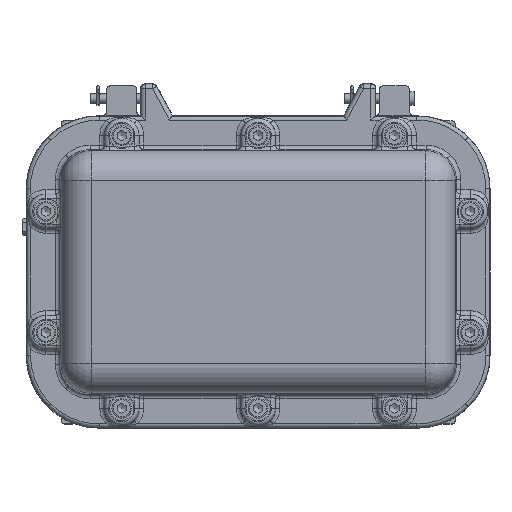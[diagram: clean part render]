
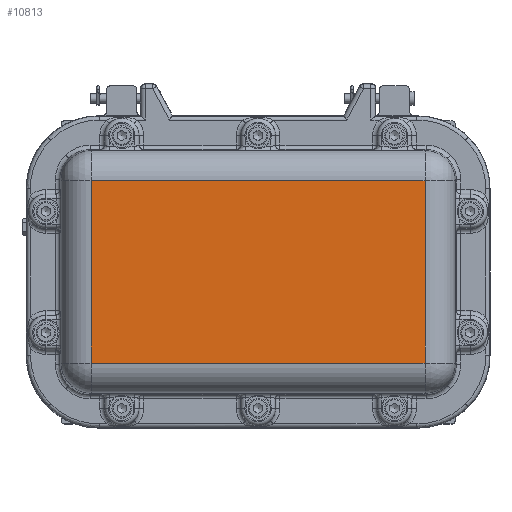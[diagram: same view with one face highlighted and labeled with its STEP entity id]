
A CAD part, top view. The second image highlights one B-rep face of the part: STEP entity #10813.
In plain terms, the highlighted planar face has unit normal (0, 0, 1).
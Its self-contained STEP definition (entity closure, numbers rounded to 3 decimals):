
#10813=ADVANCED_FACE('',(#47989),#47991,.T.);
#47989=FACE_BOUND('',#47990,.T.);
#47990=EDGE_LOOP('',(#60858,#60859,#60860,#60861));
#47991=PLANE('',#47992);
#47992=AXIS2_PLACEMENT_3D('',#47993,#47994,#47995);
#47993=CARTESIAN_POINT('',(0.,0.,40.));
#47994=DIRECTION('',(0.,-0.,1.));
#47995=DIRECTION('',(1.,0.,-0.));
#60858=ORIENTED_EDGE('',*,*,#67212,.T.);
#60859=ORIENTED_EDGE('',*,*,#67164,.T.);
#60860=ORIENTED_EDGE('',*,*,#67184,.T.);
#60861=ORIENTED_EDGE('',*,*,#67199,.T.);
#67164=EDGE_CURVE('',#72722,#72724,#72726,.T.);
#67184=EDGE_CURVE('',#72724,#72749,#72751,.T.);
#67199=EDGE_CURVE('',#72749,#72768,#72770,.T.);
#67212=EDGE_CURVE('',#72768,#72722,#72785,.T.);
#72722=VERTEX_POINT('',#99798);
#72724=VERTEX_POINT('',#99803);
#72726=LINE('',#99808,#99809);
#72749=VERTEX_POINT('',#99958);
#72751=LINE('',#99963,#99964);
#72768=VERTEX_POINT('',#100055);
#72770=LINE('',#100060,#100061);
#72785=LINE('',#100110,#100111);
#99798=CARTESIAN_POINT('',(-60.136,-110.136,40.));
#99803=CARTESIAN_POINT('',(60.136,-110.136,40.));
#99808=CARTESIAN_POINT('',(-60.136,-110.136,40.));
#99809=VECTOR('',#99810,1.);
#99810=DIRECTION('',(1.,0.,0.));
#99958=CARTESIAN_POINT('',(60.136,110.136,40.));
#99963=CARTESIAN_POINT('',(60.136,-110.136,40.));
#99964=VECTOR('',#99965,1.);
#99965=DIRECTION('',(0.,1.,0.));
#100055=CARTESIAN_POINT('',(-60.136,110.136,40.));
#100060=CARTESIAN_POINT('',(60.136,110.136,40.));
#100061=VECTOR('',#100062,1.);
#100062=DIRECTION('',(-1.,0.,0.));
#100110=CARTESIAN_POINT('',(-60.136,110.136,40.));
#100111=VECTOR('',#100112,1.);
#100112=DIRECTION('',(0.,-1.,0.));
